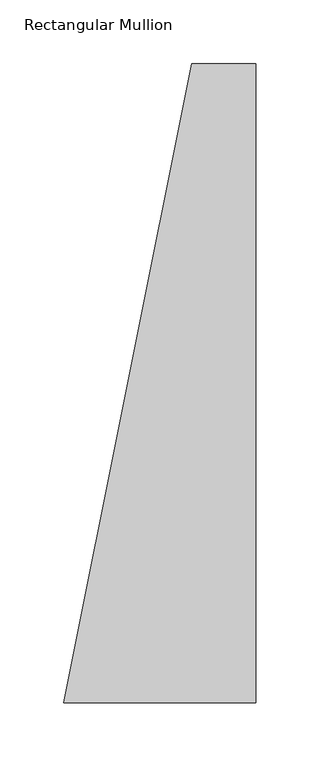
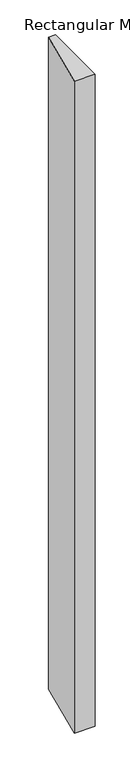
"""IFC4 building model written with IfcOpenShell, lengths in millimetres: member geometry, Rectangular Mullion : 500(350+150)x150x50mm."""

from ifc_helpers import new_model, si_unit, frame, origin, place, context, project, spatial, polyline, outline, extrude, source, transform, mapped, element, save


def rectangular_mullion_c635b1e9(model_context):
    return source(origin(), model_context, "Body", "SweptSolid", [
        extrude(outline(polyline([(0.0, 150.0), (0.0, -350.0), (-150.0, -350.0), (-50.0, 150.0), (0.0, 150.0)])), frame((0.0, 0.0, -5000.0), z_axis=(0.0, 0.0, 1.0), x_axis=(1.0, 0.0, 0.0)), (0.0, 0.0, 1.0), 5000.0),
    ])


if __name__ == "__main__":
    model = new_model("IFC4")
    model_context = context("Model", 3, world=origin())
    ifc_project = project(units=[si_unit("LENGTHUNIT", "METRE", prefix="MILLI")], contexts=[model_context])
    site = spatial("IfcSite", under=ifc_project)
    building = spatial("IfcBuilding", under=site)
    placement = place(None, origin())
    rectangular_mullion_shape = rectangular_mullion_c635b1e9(model_context)
    element("IfcMember", 1, ObjectType="Rectangular Mullion : 500(350+150)x150x50mm", at=placement, inside=building, context=model_context, shape_type="MappedRepresentation", body=[
        mapped(rectangular_mullion_shape, transform((0.0, 0.0, 0.0), x_axis=(1.0, 0.0, 0.0), y_axis=(0.0, 1.0, 0.0), z_axis=(0.0, 0.0, 1.0))),
    ])
    save(model, "model.ifc")
